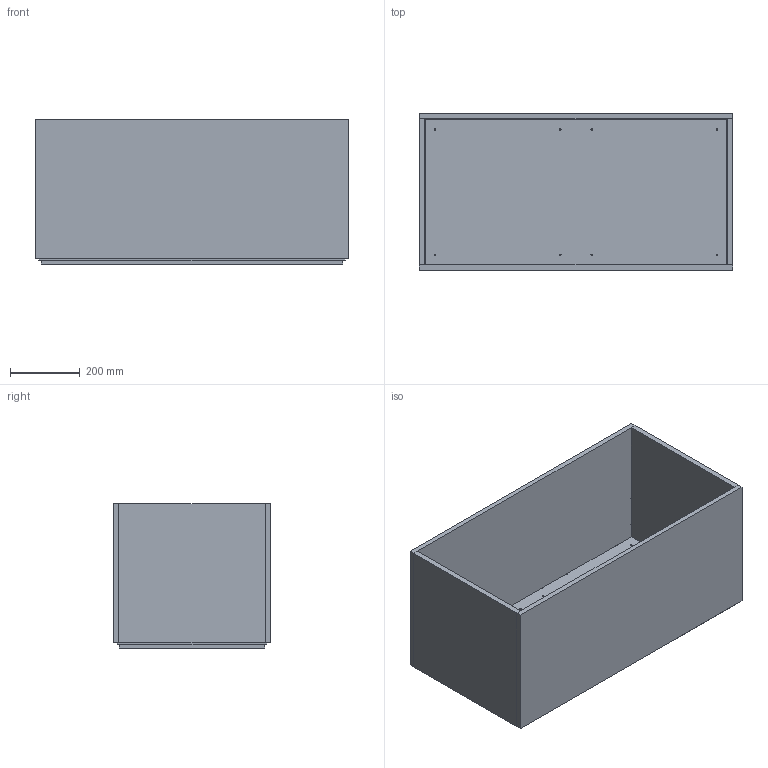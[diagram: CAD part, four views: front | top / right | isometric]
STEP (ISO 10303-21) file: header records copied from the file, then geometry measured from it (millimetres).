
FILE_DESCRIPTION(/* description */ (''),/* implementation_level */ '2;1');
FILE_NAME(/* name */ 'Rectangle',/* time_stamp */ '2026-06-15T16:48:27+12:00',/* author */ (''),/* organization */ (''),/* preprocessor_version */ 'ST-DEVELOPER v19.2',/* originating_system */ 'Rhino 8.31',/* authorisation */ '');
FILE_SCHEMA (('CONFIG_CONTROL_DESIGN'));
Length unit declared in the file: millimetre
Products named in the file (1): Document
Bounding box: 900 x 450 x 415 mm (x, y, z)
Surface area: 3004850.9 mm2
Topology: 8 solids, 110 shells, 234 faces, 728 edges, 592 vertices
Faces by surface type: plane 138, cylinder 96
Entity records: 8304 total; most frequent: CARTESIAN_POINT 2561, ORIENTED_EDGE 1024, DIRECTION 744, EDGE_CURVE 728, VERTEX_POINT 592, AXIS2_PLACEMENT_3D 489, B_SPLINE_CURVE_WITH_KNOTS 416, EDGE_LOOP 254
